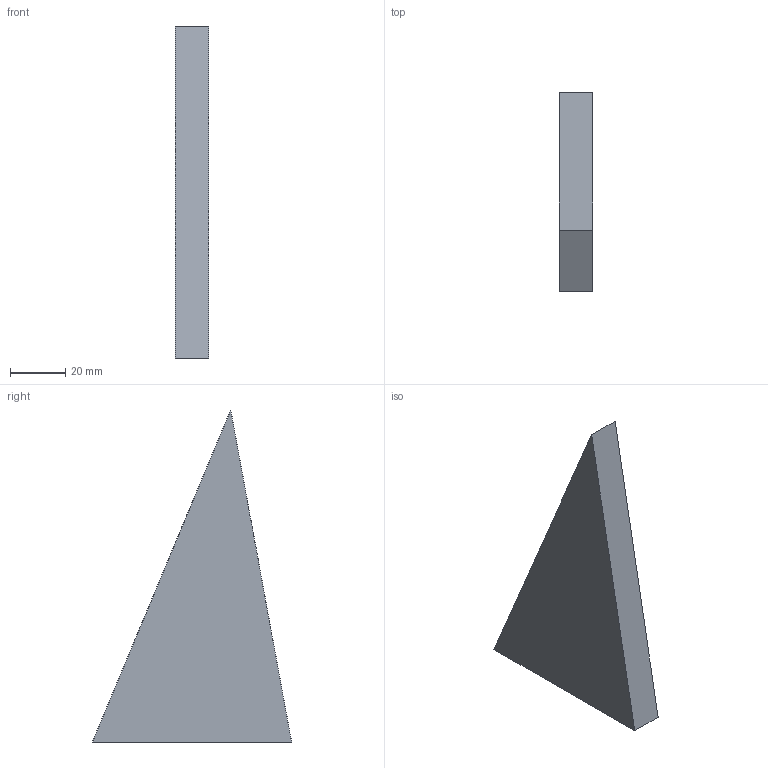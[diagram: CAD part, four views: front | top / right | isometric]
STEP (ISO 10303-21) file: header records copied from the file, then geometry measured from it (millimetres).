
FILE_DESCRIPTION(('Open CASCADE Model'),'2;1');
FILE_NAME('Open CASCADE Shape Model','2026-10-08T06:53:14',('Author'),( 'Open CASCADE'),'Open CASCADE STEP processor 7.8','Open CASCADE 7.8' ,'Unknown');
FILE_SCHEMA(('AUTOMOTIVE_DESIGN { 1 0 10303 214 1 1 1 1 }'));
Length unit declared in the file: millimetre
Products named in the file (1): Open CASCADE STEP translator 7.8 11
Bounding box: 12 x 72 x 120 mm (x, y, z)
Volume: 51840 mm3; surface area: 12528 mm2
Topology: 1 solids, 1 shells, 5 faces, 9 edges, 6 vertices
Faces by surface type: plane 5
Entity records: 250 total; most frequent: CARTESIAN_POINT 39, DIRECTION 39, LINE 27, VECTOR 27, ORIENTED_EDGE 18, PCURVE 18, DEFINITIONAL_REPRESENTATION 18, EDGE_CURVE 9
